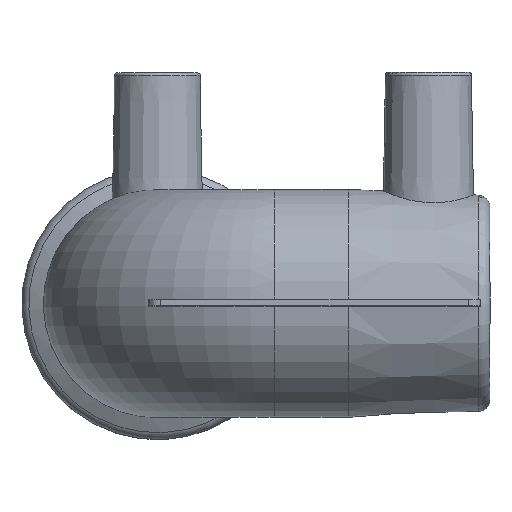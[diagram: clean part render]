
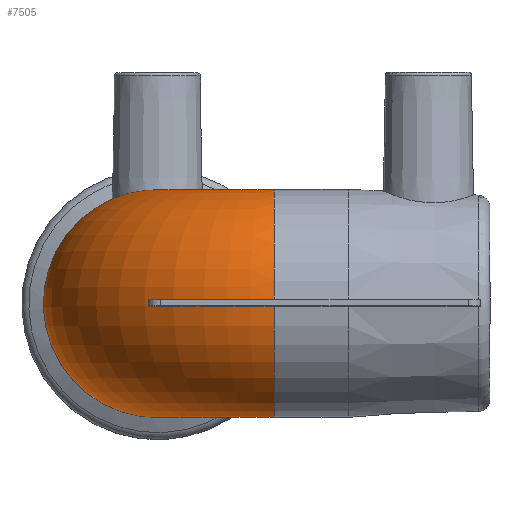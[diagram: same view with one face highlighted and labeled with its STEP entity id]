
A CAD part, top view. The second image highlights one B-rep face of the part: STEP entity #7505.
In plain terms, the highlighted toroidal (fillet/blend) face has major radius 19 mm and minor radius 18.5 mm.
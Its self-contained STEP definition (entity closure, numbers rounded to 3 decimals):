
#492=TOROIDAL_SURFACE('',#9580,19.,18.5);
#832=CIRCLE('',#9579,18.5);
#833=CIRCLE('',#9581,18.5);
#834=CIRCLE('',#9582,37.493);
#835=CIRCLE('',#9583,37.493);
#1271=ORIENTED_EDGE('',*,*,#3697,.F.);
#1272=ORIENTED_EDGE('',*,*,#3698,.T.);
#1273=ORIENTED_EDGE('',*,*,#3699,.F.);
#1274=ORIENTED_EDGE('',*,*,#3700,.F.);
#1275=ORIENTED_EDGE('',*,*,#3696,.T.);
#3696=EDGE_CURVE('',#4909,#4909,#832,.F.);
#3697=EDGE_CURVE('',#4910,#4911,#833,.F.);
#3698=EDGE_CURVE('',#4910,#4912,#834,.T.);
#3699=EDGE_CURVE('',#4913,#4912,#5707,.T.);
#3700=EDGE_CURVE('',#4911,#4913,#835,.T.);
#4909=VERTEX_POINT('',#12422);
#4910=VERTEX_POINT('',#12425);
#4911=VERTEX_POINT('',#12426);
#4912=VERTEX_POINT('',#12428);
#4913=VERTEX_POINT('',#12433);
#5707=B_SPLINE_CURVE_WITH_KNOTS('',3,(#12429,#12430,#12431,#12432),
 .UNSPECIFIED.,.F.,.F.,(4,4),(0.006,0.007),
 .UNSPECIFIED.);
#6300=EDGE_LOOP('',(#1271,#1272,#1273,#1274));
#6301=EDGE_LOOP('',(#1275));
#6860=FACE_BOUND('',#6300,.T.);
#6861=FACE_BOUND('',#6301,.T.);
#7505=ADVANCED_FACE('',(#6860,#6861),#492,.T.);
#9579=AXIS2_PLACEMENT_3D('',#12421,#10450,#10451);
#9580=AXIS2_PLACEMENT_3D('',#12423,#10452,#10453);
#9581=AXIS2_PLACEMENT_3D('',#12424,#10454,#10455);
#9582=AXIS2_PLACEMENT_3D('',#12427,#10456,#10457);
#9583=AXIS2_PLACEMENT_3D('',#12434,#10458,#10459);
#10450=DIRECTION('',(0.,0.,-1.));
#10451=DIRECTION('',(1.,0.,0.));
#10452=DIRECTION('',(0.,-1.,0.));
#10453=DIRECTION('',(0.,0.,-1.));
#10454=DIRECTION('',(-1.,0.,0.));
#10455=DIRECTION('',(0.,0.,-1.));
#10456=DIRECTION('',(0.,-1.,0.));
#10457=DIRECTION('',(0.,0.,-1.));
#10458=DIRECTION('',(0.,-1.,0.));
#10459=DIRECTION('',(0.,0.,-1.));
#12421=CARTESIAN_POINT('',(0.,0.,35.));
#12422=CARTESIAN_POINT('',(18.5,0.,35.));
#12423=CARTESIAN_POINT('',(19.,0.,35.));
#12424=CARTESIAN_POINT('',(19.,0.,54.));
#12425=CARTESIAN_POINT('',(19.,-0.5,72.493));
#12426=CARTESIAN_POINT('',(19.,0.5,72.493));
#12427=CARTESIAN_POINT('',(19.,-0.5,35.));
#12428=CARTESIAN_POINT('',(7.5,-0.5,70.686));
#12429=CARTESIAN_POINT('',(7.5,0.5,70.686));
#12430=CARTESIAN_POINT('',(7.5,0.165,70.696));
#12431=CARTESIAN_POINT('',(7.5,-0.168,70.695));
#12432=CARTESIAN_POINT('',(7.5,-0.5,70.686));
#12433=CARTESIAN_POINT('',(7.5,0.5,70.686));
#12434=CARTESIAN_POINT('',(19.,0.5,35.));
